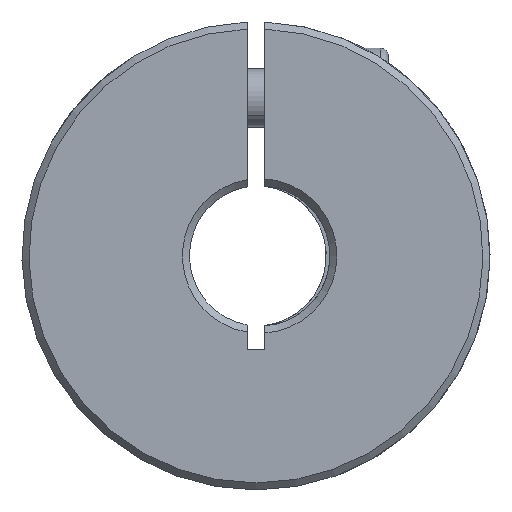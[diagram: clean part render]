
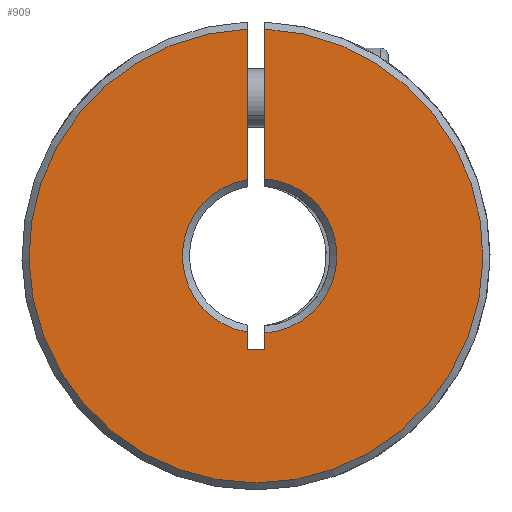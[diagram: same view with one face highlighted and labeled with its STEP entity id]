
A CAD part, front view. The second image highlights one B-rep face of the part: STEP entity #909.
In plain terms, the highlighted planar face has unit normal (0, -1, 0).
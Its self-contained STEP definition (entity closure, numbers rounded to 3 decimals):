
#73 = CARTESIAN_POINT ( 'NONE',  ( 0.314, -30., 0. ) ) ;
#75 = EDGE_CURVE ( 'NONE', #4399, #5845, #920, .T. ) ;
#96 = LINE ( 'NONE', #4750, #1243 ) ;
#148 = CARTESIAN_POINT ( 'NONE',  ( 0.75, -30., -8. ) ) ;
#210 = VERTEX_POINT ( 'NONE', #3178 ) ;
#264 = CARTESIAN_POINT ( 'NONE',  ( -0.75, -30., 19.385 ) ) ;
#396 = LINE ( 'NONE', #429, #5010 ) ;
#429 = CARTESIAN_POINT ( 'NONE',  ( 0.75, -30., -8. ) ) ;
#622 = EDGE_LOOP ( 'NONE', ( #919, #4552, #2039, #3076, #5976, #1548, #3297, #3925 ) ) ;
#693 = AXIS2_PLACEMENT_3D ( 'NONE', #5760, #2989, #2526 ) ;
#909 = ADVANCED_FACE ( 'NONE', ( #3495 ), #3110, .F. ) ;
#919 = ORIENTED_EDGE ( 'NONE', *, *, #2299, .T. ) ;
#920 = CIRCLE ( 'NONE', #5297, 6.6 ) ;
#950 = CARTESIAN_POINT ( 'NONE',  ( 0.75, -30., 6.586 ) ) ;
#981 = DIRECTION ( 'NONE',  ( 0., 0., -1. ) ) ;
#1015 = DIRECTION ( 'NONE',  ( 0., 0., 1. ) ) ;
#1131 = CARTESIAN_POINT ( 'NONE',  ( 0.75, -30., -6.586 ) ) ;
#1243 = VECTOR ( 'NONE', #1015, 1000. ) ;
#1277 = VERTEX_POINT ( 'NONE', #2531 ) ;
#1310 = VERTEX_POINT ( 'NONE', #2719 ) ;
#1326 = LINE ( 'NONE', #5100, #2949 ) ;
#1444 = DIRECTION ( 'NONE',  ( 0., 0., -1. ) ) ;
#1548 = ORIENTED_EDGE ( 'NONE', *, *, #3190, .T. ) ;
#1702 = EDGE_CURVE ( 'NONE', #2884, #1277, #5865, .T. ) ;
#1919 = CARTESIAN_POINT ( 'NONE',  ( -0.75, -30., -8. ) ) ;
#1952 = DIRECTION ( 'NONE',  ( 0., 1., 0. ) ) ;
#2039 = ORIENTED_EDGE ( 'NONE', *, *, #3411, .T. ) ;
#2254 = LINE ( 'NONE', #2286, #5205 ) ;
#2286 = CARTESIAN_POINT ( 'NONE',  ( -0.75, -30., -8. ) ) ;
#2299 = EDGE_CURVE ( 'NONE', #1277, #4399, #1326, .T. ) ;
#2470 = CIRCLE ( 'NONE', #5690, 6.6 ) ;
#2526 = DIRECTION ( 'NONE',  ( 0., 0., 1. ) ) ;
#2531 = CARTESIAN_POINT ( 'NONE',  ( 0.75, -30., 19.385 ) ) ;
#2719 = CARTESIAN_POINT ( 'NONE',  ( -0.75, -30., -6.514 ) ) ;
#2836 = VERTEX_POINT ( 'NONE', #5273 ) ;
#2884 = VERTEX_POINT ( 'NONE', #264 ) ;
#2949 = VECTOR ( 'NONE', #1444, 1000. ) ;
#2989 = DIRECTION ( 'NONE',  ( 0., -1., 0. ) ) ;
#3076 = ORIENTED_EDGE ( 'NONE', *, *, #3128, .T. ) ;
#3110 = PLANE ( 'NONE',  #4414 ) ;
#3128 = EDGE_CURVE ( 'NONE', #5725, #2836, #5604, .T. ) ;
#3178 = CARTESIAN_POINT ( 'NONE',  ( -0.75, -30., 6.514 ) ) ;
#3190 = EDGE_CURVE ( 'NONE', #1310, #210, #2470, .T. ) ;
#3297 = ORIENTED_EDGE ( 'NONE', *, *, #4168, .T. ) ;
#3321 = DIRECTION ( 'NONE',  ( 0., 0., 1. ) ) ;
#3411 = EDGE_CURVE ( 'NONE', #5845, #5725, #396, .T. ) ;
#3495 = FACE_OUTER_BOUND ( 'NONE', #622, .T. ) ;
#3546 = VECTOR ( 'NONE', #5665, 1000. ) ;
#3802 = DIRECTION ( 'NONE',  ( 0., 0., 1. ) ) ;
#3925 = ORIENTED_EDGE ( 'NONE', *, *, #1702, .T. ) ;
#4062 = DIRECTION ( 'NONE',  ( 0., 0., 1. ) ) ;
#4121 = DIRECTION ( 'NONE',  ( 0., 0., 1. ) ) ;
#4168 = EDGE_CURVE ( 'NONE', #210, #2884, #2254, .T. ) ;
#4249 = DIRECTION ( 'NONE',  ( 0., 1., 0. ) ) ;
#4399 = VERTEX_POINT ( 'NONE', #950 ) ;
#4414 = AXIS2_PLACEMENT_3D ( 'NONE', #4966, #5810, #4062 ) ;
#4552 = ORIENTED_EDGE ( 'NONE', *, *, #75, .T. ) ;
#4750 = CARTESIAN_POINT ( 'NONE',  ( -0.75, -30., -8. ) ) ;
#4966 = CARTESIAN_POINT ( 'NONE',  ( 0., -30., 0. ) ) ;
#5010 = VECTOR ( 'NONE', #981, 1000. ) ;
#5100 = CARTESIAN_POINT ( 'NONE',  ( 0.75, -30., -8. ) ) ;
#5205 = VECTOR ( 'NONE', #4121, 1000. ) ;
#5273 = CARTESIAN_POINT ( 'NONE',  ( -0.75, -30., -8. ) ) ;
#5275 = EDGE_CURVE ( 'NONE', #2836, #1310, #96, .T. ) ;
#5297 = AXIS2_PLACEMENT_3D ( 'NONE', #5582, #4249, #3321 ) ;
#5582 = CARTESIAN_POINT ( 'NONE',  ( 0.314, -30., 0. ) ) ;
#5604 = LINE ( 'NONE', #1919, #3546 ) ;
#5665 = DIRECTION ( 'NONE',  ( -1., 0., 0. ) ) ;
#5690 = AXIS2_PLACEMENT_3D ( 'NONE', #73, #1952, #3802 ) ;
#5725 = VERTEX_POINT ( 'NONE', #148 ) ;
#5760 = CARTESIAN_POINT ( 'NONE',  ( 0., -30., 0. ) ) ;
#5810 = DIRECTION ( 'NONE',  ( 0., 1., 0. ) ) ;
#5845 = VERTEX_POINT ( 'NONE', #1131 ) ;
#5865 = CIRCLE ( 'NONE', #693, 19.4 ) ;
#5976 = ORIENTED_EDGE ( 'NONE', *, *, #5275, .T. ) ;
